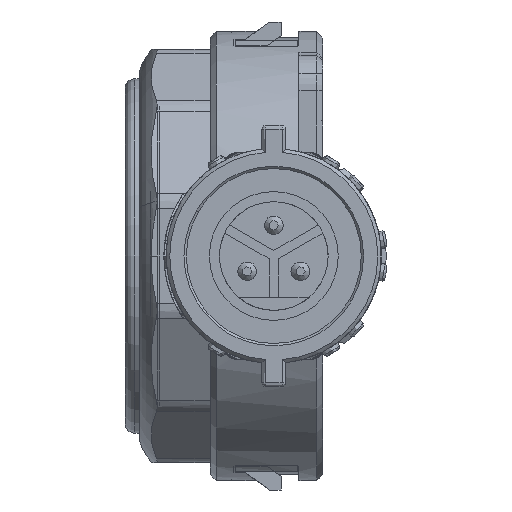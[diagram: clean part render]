
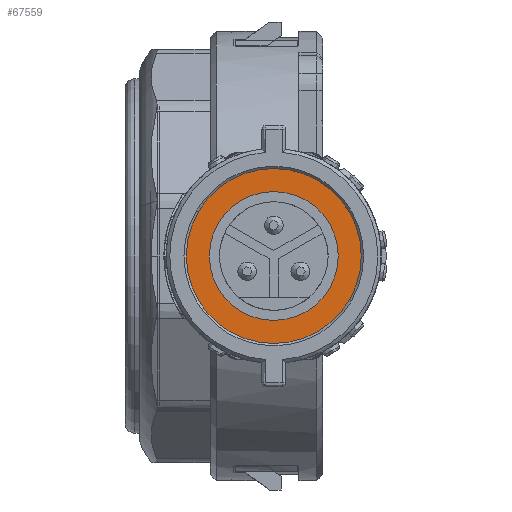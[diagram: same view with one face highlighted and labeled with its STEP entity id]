
A CAD part, left-side view. The second image highlights one B-rep face of the part: STEP entity #67559.
In plain terms, the highlighted planar face has unit normal (-1, 0, 0).
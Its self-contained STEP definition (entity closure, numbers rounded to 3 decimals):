
#1534 = AXIS2_PLACEMENT_3D ( 'NONE', #30117, #3452, #65699 ) ;
#2750 = AXIS2_PLACEMENT_3D ( 'NONE', #44104, #7508, #38973 ) ;
#3452 = DIRECTION ( 'NONE',  ( -1., 0., 0. ) ) ;
#7508 = DIRECTION ( 'NONE',  ( -1., 0., 0. ) ) ;
#8829 = DIRECTION ( 'NONE',  ( 0., -1., 0. ) ) ;
#9701 = ORIENTED_EDGE ( 'NONE', *, *, #55437, .F. ) ;
#11171 = ORIENTED_EDGE ( 'NONE', *, *, #52212, .F. ) ;
#11319 = CIRCLE ( 'NONE', #1534, 5.45 ) ;
#12954 = FACE_OUTER_BOUND ( 'NONE', #16747, .T. ) ;
#16313 = EDGE_CURVE ( 'NONE', #67565, #67565, #28851, .T. ) ;
#16747 = EDGE_LOOP ( 'NONE', ( #51516 ) ) ;
#16963 = CIRCLE ( 'NONE', #2750, 5.45 ) ;
#17218 = DIRECTION ( 'NONE',  ( 0., -1., 0. ) ) ;
#18426 = DIRECTION ( 'NONE',  ( -1., 0., 0. ) ) ;
#23088 = CARTESIAN_POINT ( 'NONE',  ( 6.89, 0., -5.45 ) ) ;
#24916 = FACE_BOUND ( 'NONE', #58867, .T. ) ;
#27523 = CARTESIAN_POINT ( 'NONE',  ( 6.89, 0., 5.45 ) ) ;
#28851 = CIRCLE ( 'NONE', #60520, 7.4 ) ;
#30117 = CARTESIAN_POINT ( 'NONE',  ( 6.89, 0., 0. ) ) ;
#32244 = CARTESIAN_POINT ( 'NONE',  ( 6.89, 0., 0. ) ) ;
#38973 = DIRECTION ( 'NONE',  ( 0., 0., 1. ) ) ;
#40119 = AXIS2_PLACEMENT_3D ( 'NONE', #59832, #18426, #8829 ) ;
#42778 = VERTEX_POINT ( 'NONE', #23088 ) ;
#44104 = CARTESIAN_POINT ( 'NONE',  ( 6.89, 0., 0. ) ) ;
#44922 = VERTEX_POINT ( 'NONE', #27523 ) ;
#47432 = CARTESIAN_POINT ( 'NONE',  ( 6.89, -7.4, 0. ) ) ;
#51516 = ORIENTED_EDGE ( 'NONE', *, *, #16313, .F. ) ;
#52212 = EDGE_CURVE ( 'NONE', #42778, #44922, #11319, .T. ) ;
#54704 = PLANE ( 'NONE',  #40119 ) ;
#55437 = EDGE_CURVE ( 'NONE', #44922, #42778, #16963, .T. ) ;
#58867 = EDGE_LOOP ( 'NONE', ( #11171, #9701 ) ) ;
#59832 = CARTESIAN_POINT ( 'NONE',  ( 6.89, 0., 0. ) ) ;
#60520 = AXIS2_PLACEMENT_3D ( 'NONE', #32244, #64043, #17218 ) ;
#64043 = DIRECTION ( 'NONE',  ( 1., 0., 0. ) ) ;
#65699 = DIRECTION ( 'NONE',  ( 0., 0., -1. ) ) ;
#67559 = ADVANCED_FACE ( 'NONE', ( #12954, #24916 ), #54704, .T. ) ;
#67565 = VERTEX_POINT ( 'NONE', #47432 ) ;
